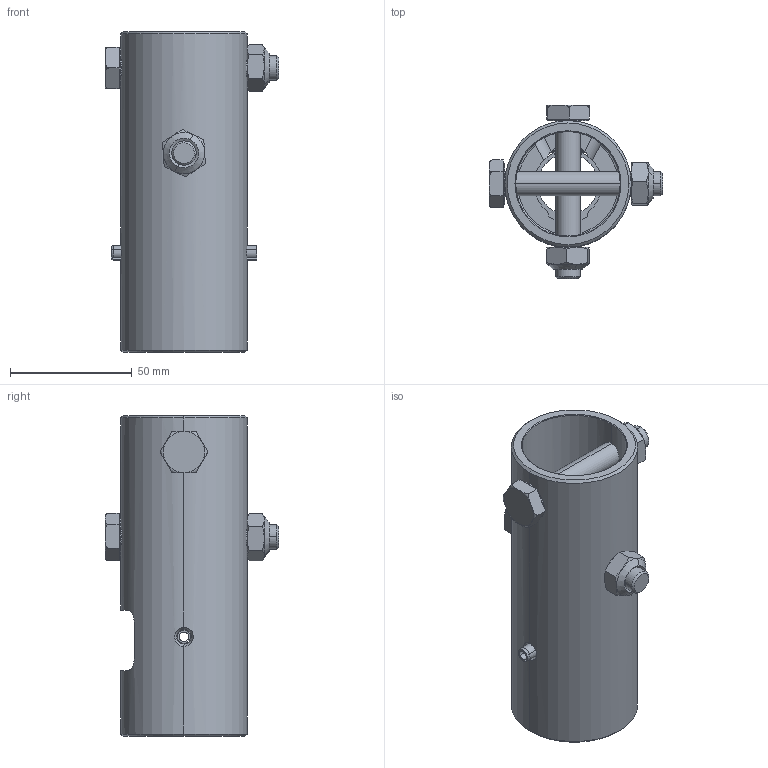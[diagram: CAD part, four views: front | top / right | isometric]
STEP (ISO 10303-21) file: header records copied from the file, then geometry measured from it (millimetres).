
FILE_DESCRIPTION (( 'STEP AP203' ), '1' );
FILE_NAME ('BKS_45.6643_20745.6621.4330_STEP_20150213.STEP', '2015-02-13T12:45:24', ( '' ), ( '' ), 'SwSTEP 2.0', 'SolidWorks 2013', '' );
FILE_SCHEMA (( 'CONFIG_CONTROL_DESIGN' ));
Length unit declared in the file: millimetre
Products named in the file (1): BKS_45.6643_20745.6621.4330_STEP_20150213
Bounding box: 71.4 x 71.4 x 132 mm (x, y, z)
Volume: 125941.3 mm3; surface area: 50202.9 mm2
Topology: 7 solids, 7 shells, 205 faces, 502 edges, 302 vertices
Faces by surface type: plane 71, cylinder 64, cone 55, torus 15
Entity records: 7569 total; most frequent: CARTESIAN_POINT 2766, ORIENTED_EDGE 1004, DIRECTION 968, EDGE_CURVE 502, AXIS2_PLACEMENT_3D 382, VERTEX_POINT 302, EDGE_LOOP 220, ADVANCED_FACE 205
